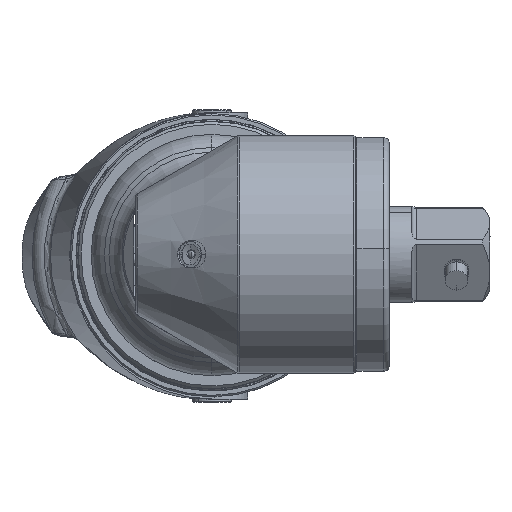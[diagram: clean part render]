
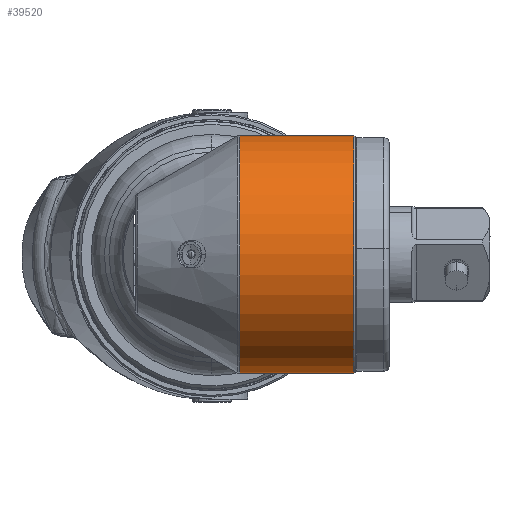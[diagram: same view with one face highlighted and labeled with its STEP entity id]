
A CAD part, top view. The second image highlights one B-rep face of the part: STEP entity #39520.
In plain terms, the highlighted cylindrical face has radius 20.955 mm (diameter 41.91 mm), a partial arc.
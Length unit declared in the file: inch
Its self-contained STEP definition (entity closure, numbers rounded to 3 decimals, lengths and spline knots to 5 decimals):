
#2340 = CIRCLE ( 'NONE', #38825, 0.825 ) ;
#4225 = CARTESIAN_POINT ( 'NONE',  ( 1.07, 0., 2.4745 ) ) ;
#4722 = EDGE_LOOP ( 'NONE', ( #12443, #53385, #22151, #14503 ) ) ;
#5863 = AXIS2_PLACEMENT_3D ( 'NONE', #52357, #52291, #52064 ) ;
#8807 = CARTESIAN_POINT ( 'NONE',  ( 1.07, 0.825, 2.4745 ) ) ;
#9726 = AXIS2_PLACEMENT_3D ( 'NONE', #4225, #16032, #46040 ) ;
#11732 = VERTEX_POINT ( 'NONE', #29202 ) ;
#12443 = ORIENTED_EDGE ( 'NONE', *, *, #73144, .F. ) ;
#13942 = DIRECTION ( 'NONE',  ( 1., 0., 0. ) ) ;
#14169 = LINE ( 'NONE', #37610, #75225 ) ;
#14503 = ORIENTED_EDGE ( 'NONE', *, *, #16583, .T. ) ;
#16032 = DIRECTION ( 'NONE',  ( 1., 0., 0. ) ) ;
#16583 = EDGE_CURVE ( 'NONE', #54369, #11732, #53740, .T. ) ;
#17524 = DIRECTION ( 'NONE',  ( 1., 0., 0. ) ) ;
#21510 = CARTESIAN_POINT ( 'NONE',  ( 0.19344, -0.825, 2.4745 ) ) ;
#22151 = ORIENTED_EDGE ( 'NONE', *, *, #39343, .T. ) ;
#29202 = CARTESIAN_POINT ( 'NONE',  ( 0.983, 0.825, 2.4745 ) ) ;
#37610 = CARTESIAN_POINT ( 'NONE',  ( 1.07, -0.825, 2.4745 ) ) ;
#38825 = AXIS2_PLACEMENT_3D ( 'NONE', #53075, #17524, #58946 ) ;
#39343 = EDGE_CURVE ( 'NONE', #59599, #54369, #14169, .T. ) ;
#39520 = ADVANCED_FACE ( 'NONE', ( #43135 ), #66866, .T. ) ;
#43135 = FACE_OUTER_BOUND ( 'NONE', #4722, .T. ) ;
#44502 = CARTESIAN_POINT ( 'NONE',  ( 0.983, -0.825, 2.4745 ) ) ;
#46040 = DIRECTION ( 'NONE',  ( 0., -1., 0. ) ) ;
#47225 = VECTOR ( 'NONE', #67833, 39.37008 ) ;
#52064 = DIRECTION ( 'NONE',  ( 0., 1., 0. ) ) ;
#52291 = DIRECTION ( 'NONE',  ( -1., 0., 0. ) ) ;
#52357 = CARTESIAN_POINT ( 'NONE',  ( 0.983, 0., 2.4745 ) ) ;
#53075 = CARTESIAN_POINT ( 'NONE',  ( 0.19344, 0., 2.4745 ) ) ;
#53385 = ORIENTED_EDGE ( 'NONE', *, *, #62838, .T. ) ;
#53740 = CIRCLE ( 'NONE', #5863, 0.825 ) ;
#54369 = VERTEX_POINT ( 'NONE', #44502 ) ;
#55394 = CARTESIAN_POINT ( 'NONE',  ( 0.19344, 0.825, 2.4745 ) ) ;
#58946 = DIRECTION ( 'NONE',  ( 0., 1., 0. ) ) ;
#59599 = VERTEX_POINT ( 'NONE', #21510 ) ;
#62764 = LINE ( 'NONE', #8807, #47225 ) ;
#62838 = EDGE_CURVE ( 'NONE', #74297, #59599, #2340, .T. ) ;
#66866 = CYLINDRICAL_SURFACE ( 'NONE', #9726, 0.825 ) ;
#67833 = DIRECTION ( 'NONE',  ( 1., 0., 0. ) ) ;
#73144 = EDGE_CURVE ( 'NONE', #74297, #11732, #62764, .T. ) ;
#74297 = VERTEX_POINT ( 'NONE', #55394 ) ;
#75225 = VECTOR ( 'NONE', #13942, 39.37008 ) ;
